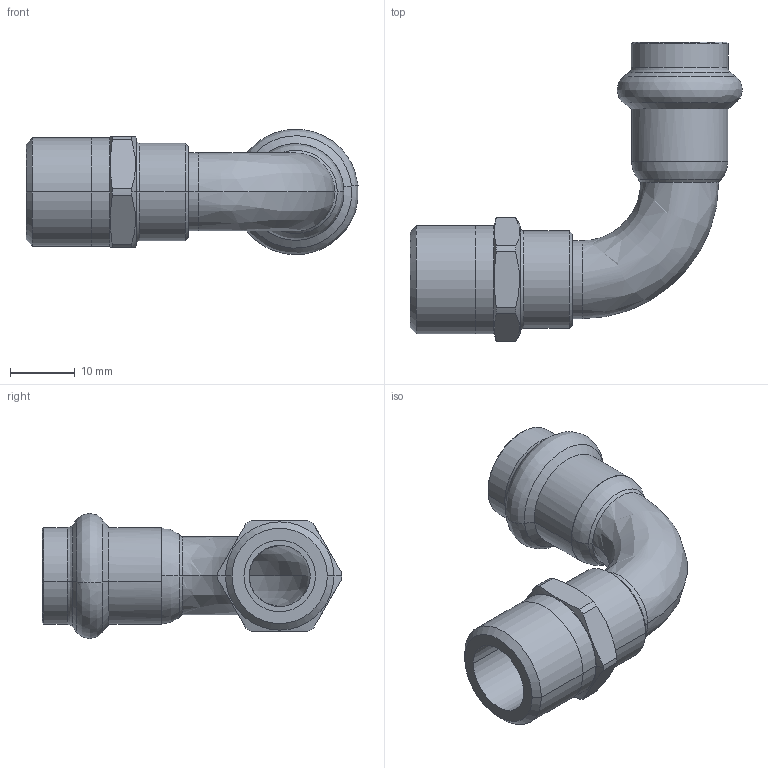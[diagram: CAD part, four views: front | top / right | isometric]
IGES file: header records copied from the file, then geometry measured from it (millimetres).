
Start section: Elysium IGES Interface
Global section: file name: C:\3d modellen sudo\C-Pr VP\SP8092GV\8092GVW1238.igs; native system: CoCreate Modeling 17.00A  17-Jun-2010; preprocessor: CoCreate IGES_3D V2.2; author: Unknown; organization: Unknown; date: 20130305.111755; units: millimetre
Bounding box: 51.09 x 46.08 x 19.27 mm (x, y, z)
Volume: 5818 mm3; surface area: 6203.1 mm2
Topology: 1 solids, 1 shells, 88 faces, 194 edges, 114 vertices
Faces by surface type: bspline 88
